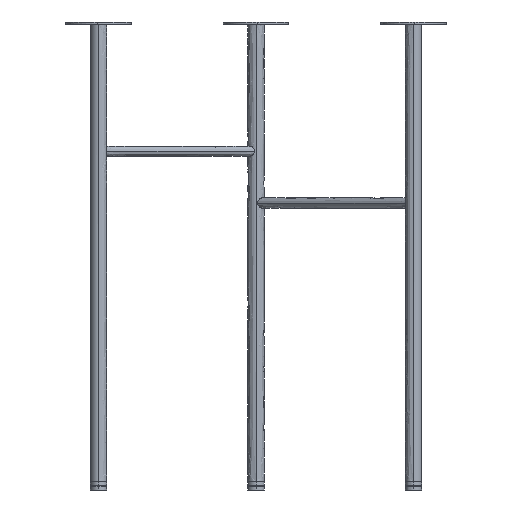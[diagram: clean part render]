
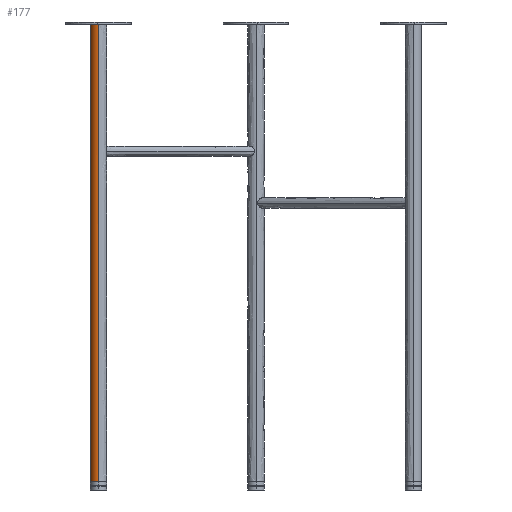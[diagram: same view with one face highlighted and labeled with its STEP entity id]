
A CAD part, left-side view. The second image highlights one B-rep face of the part: STEP entity #177.
In plain terms, the highlighted free-form (B-spline) face has degree [2, 1] with [5, 2] control points.
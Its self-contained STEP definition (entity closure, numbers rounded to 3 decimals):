
#177=ADVANCED_FACE('',(#353),#5579,.T.);
#353=FACE_OUTER_BOUND('',#547,.T.);
#547=EDGE_LOOP('',(#919,#920,#921,#922));
#919=ORIENTED_EDGE('',*,*,#4346,.T.);
#920=ORIENTED_EDGE('',*,*,#4343,.F.);
#921=ORIENTED_EDGE('',*,*,#4347,.T.);
#922=ORIENTED_EDGE('',*,*,#4316,.F.);
#1688=PCURVE('',#5519,#2500);
#1727=PCURVE('',#5522,#2539);
#1731=PCURVE('',#5579,#2543);
#1732=PCURVE('',#5579,#2544);
#1733=PCURVE('',#5579,#2545);
#1734=PCURVE('',#5579,#2546);
#1894=PCURVE('',#5602,#2706);
#1896=PCURVE('',#5602,#2708);
#2500=DEFINITIONAL_REPRESENTATION('',(#4773),#14652);
#2539=DEFINITIONAL_REPRESENTATION('',(#4805),#14652);
#2543=DEFINITIONAL_REPRESENTATION('',(#3299),#14652);
#2544=DEFINITIONAL_REPRESENTATION('',(#3300),#14652);
#2545=DEFINITIONAL_REPRESENTATION('',(#3301),#14652);
#2546=DEFINITIONAL_REPRESENTATION('',(#3302),#14652);
#2706=DEFINITIONAL_REPRESENTATION('',(#3433),#14652);
#2708=DEFINITIONAL_REPRESENTATION('',(#3435),#14652);
#3299=B_SPLINE_CURVE_WITH_KNOTS('',1,(#7535,#7536),.UNSPECIFIED.,.F.,.F.,
(2,2),(3.483,700.),.UNSPECIFIED.);
#3300=B_SPLINE_CURVE_WITH_KNOTS('',1,(#7537,#7538),.UNSPECIFIED.,.F.,.F.,
(2,2),(0.,39.27),.UNSPECIFIED.);
#3301=B_SPLINE_CURVE_WITH_KNOTS('',1,(#7541,#7542),.UNSPECIFIED.,.F.,.F.,
(2,2),(-700.,-3.483),.UNSPECIFIED.);
#3302=B_SPLINE_CURVE_WITH_KNOTS('',1,(#7543,#7544),.UNSPECIFIED.,.F.,.F.,
(2,2),(39.27,78.54),.UNSPECIFIED.);
#3433=B_SPLINE_CURVE_WITH_KNOTS('',1,(#9132,#9133),.UNSPECIFIED.,.F.,.F.,
(2,2),(-700.,-3.483),.UNSPECIFIED.);
#3435=B_SPLINE_CURVE_WITH_KNOTS('',1,(#9136,#9137),.UNSPECIFIED.,.F.,.F.,
(2,2),(3.483,700.),.UNSPECIFIED.);
#3910=SURFACE_CURVE('',#4772,(#1688,#1734),.PCURVE_S1.);
#3937=SURFACE_CURVE('',#4804,(#1727,#1732),.PCURVE_S1.);
#3940=SURFACE_CURVE('',#4811,(#1731,#1896),.PCURVE_S1.);
#3941=SURFACE_CURVE('',#4812,(#1733,#1894),.PCURVE_S1.);
#4316=EDGE_CURVE('',#5334,#5270,#3910,.T.);
#4343=EDGE_CURVE('',#5277,#5335,#3937,.T.);
#4346=EDGE_CURVE('',#5334,#5335,#3940,.T.);
#4347=EDGE_CURVE('',#5277,#5270,#3941,.T.);
#4772=(
BOUNDED_CURVE()
B_SPLINE_CURVE(2,(#7264,#7265,#7266,#7267,#7268),.UNSPECIFIED.,.F.,.F.)
B_SPLINE_CURVE_WITH_KNOTS((3,2,3),(39.27,58.905,78.54),
 .UNSPECIFIED.)
CURVE()
GEOMETRIC_REPRESENTATION_ITEM()
RATIONAL_B_SPLINE_CURVE((1.,0.707,1.,0.707,1.))
REPRESENTATION_ITEM('')
);
#4773=(
BOUNDED_CURVE()
B_SPLINE_CURVE(2,(#7269,#7270,#7271,#7272,#7273),.UNSPECIFIED.,.F.,.F.)
B_SPLINE_CURVE_WITH_KNOTS((3,2,3),(39.27,58.905,78.54),
 .UNSPECIFIED.)
CURVE()
GEOMETRIC_REPRESENTATION_ITEM()
RATIONAL_B_SPLINE_CURVE((1.,0.707,1.,0.707,1.))
REPRESENTATION_ITEM('')
);
#4804=(
BOUNDED_CURVE()
B_SPLINE_CURVE(2,(#7498,#7499,#7500,#7501,#7502),.UNSPECIFIED.,.F.,.F.)
B_SPLINE_CURVE_WITH_KNOTS((3,2,3),(0.,19.635,39.27),
 .UNSPECIFIED.)
CURVE()
GEOMETRIC_REPRESENTATION_ITEM()
RATIONAL_B_SPLINE_CURVE((1.,0.707,1.,0.707,1.))
REPRESENTATION_ITEM('')
);
#4805=(
BOUNDED_CURVE()
B_SPLINE_CURVE(2,(#7503,#7504,#7505,#7506,#7507),.UNSPECIFIED.,.F.,.F.)
B_SPLINE_CURVE_WITH_KNOTS((3,2,3),(0.,19.635,39.27),
 .UNSPECIFIED.)
CURVE()
GEOMETRIC_REPRESENTATION_ITEM()
RATIONAL_B_SPLINE_CURVE((1.,0.707,1.,0.707,1.))
REPRESENTATION_ITEM('')
);
#4811=(
BOUNDED_CURVE()
B_SPLINE_CURVE(1,(#7533,#7534),.UNSPECIFIED.,.F.,.F.)
B_SPLINE_CURVE_WITH_KNOTS((2,2),(3.483,700.),.UNSPECIFIED.)
CURVE()
GEOMETRIC_REPRESENTATION_ITEM()
RATIONAL_B_SPLINE_CURVE((1.,1.))
REPRESENTATION_ITEM('')
);
#4812=(
BOUNDED_CURVE()
B_SPLINE_CURVE(1,(#7539,#7540),.UNSPECIFIED.,.F.,.F.)
B_SPLINE_CURVE_WITH_KNOTS((2,2),(-700.,-3.483),.UNSPECIFIED.)
CURVE()
GEOMETRIC_REPRESENTATION_ITEM()
RATIONAL_B_SPLINE_CURVE((1.,1.))
REPRESENTATION_ITEM('')
);
#5270=VERTEX_POINT('',#7056);
#5277=VERTEX_POINT('',#7063);
#5334=VERTEX_POINT('',#7120);
#5335=VERTEX_POINT('',#7121);
#5519=B_SPLINE_SURFACE_WITH_KNOTS('',1,1,((#6543,#6544),(#6545,#6546)),
 .UNSPECIFIED.,.F.,.F.,.F.,(2,2),(2,2),(-23.144,83.144),
(-56.894,49.394),.UNSPECIFIED.);
#5522=B_SPLINE_SURFACE_WITH_KNOTS('',1,1,((#6615,#6616),(#6617,#6618)),
 .UNSPECIFIED.,.F.,.F.,.F.,(2,2),(2,2),(-15.625,15.625),(-15.625,15.625),
 .UNSPECIFIED.);
#5579=(
BOUNDED_SURFACE()
B_SPLINE_SURFACE(2,1,((#6619,#6620),(#6621,#6622),(#6623,#6624),(#6625,
#6626),(#6627,#6628)),.UNSPECIFIED.,.F.,.F.,.F.)
B_SPLINE_SURFACE_WITH_KNOTS((3,2,3),(2,2),(0.,19.635,39.27),
(0.,700.),.UNSPECIFIED.)
GEOMETRIC_REPRESENTATION_ITEM()
RATIONAL_B_SPLINE_SURFACE(((1.,1.),(0.707,0.707),
(1.,1.),(0.707,0.707),(1.,1.)))
REPRESENTATION_ITEM('')
SURFACE()
);
#5602=(
BOUNDED_SURFACE()
B_SPLINE_SURFACE(2,1,((#6881,#6882),(#6883,#6884),(#6885,#6886),(#6887,
#6888),(#6889,#6890)),.UNSPECIFIED.,.F.,.F.,.F.)
B_SPLINE_SURFACE_WITH_KNOTS((3,2,3),(2,2),(39.27,58.905,
78.54),(0.,700.),.UNSPECIFIED.)
GEOMETRIC_REPRESENTATION_ITEM()
RATIONAL_B_SPLINE_SURFACE(((1.,1.),(0.707,0.707),
(1.,1.),(0.707,0.707),(1.,1.)))
REPRESENTATION_ITEM('')
SURFACE()
);
#6543=CARTESIAN_POINT('',(-6175.066,677.775,906.015));
#6544=CARTESIAN_POINT('',(-6175.066,784.062,906.015));
#6545=CARTESIAN_POINT('',(-6281.353,677.775,906.015));
#6546=CARTESIAN_POINT('',(-6281.353,784.062,906.015));
#6615=CARTESIAN_POINT('',(-6212.585,715.294,206.015));
#6616=CARTESIAN_POINT('',(-6212.585,746.544,206.015));
#6617=CARTESIAN_POINT('',(-6243.835,715.294,206.015));
#6618=CARTESIAN_POINT('',(-6243.835,746.544,206.015));
#6619=CARTESIAN_POINT('',(-6240.71,730.919,909.515));
#6620=CARTESIAN_POINT('',(-6240.71,730.919,206.015));
#6621=CARTESIAN_POINT('',(-6240.71,743.419,909.515));
#6622=CARTESIAN_POINT('',(-6240.71,743.419,206.015));
#6623=CARTESIAN_POINT('',(-6228.21,743.419,909.515));
#6624=CARTESIAN_POINT('',(-6228.21,743.419,206.015));
#6625=CARTESIAN_POINT('',(-6215.71,743.419,909.515));
#6626=CARTESIAN_POINT('',(-6215.71,743.419,206.015));
#6627=CARTESIAN_POINT('',(-6215.71,730.919,909.515));
#6628=CARTESIAN_POINT('',(-6215.71,730.919,206.015));
#6881=CARTESIAN_POINT('',(-6215.71,730.919,909.515));
#6882=CARTESIAN_POINT('',(-6215.71,730.919,206.015));
#6883=CARTESIAN_POINT('',(-6215.71,718.419,909.515));
#6884=CARTESIAN_POINT('',(-6215.71,718.419,206.015));
#6885=CARTESIAN_POINT('',(-6228.21,718.419,909.515));
#6886=CARTESIAN_POINT('',(-6228.21,718.419,206.015));
#6887=CARTESIAN_POINT('',(-6240.71,718.419,909.515));
#6888=CARTESIAN_POINT('',(-6240.71,718.419,206.015));
#6889=CARTESIAN_POINT('',(-6240.71,730.919,909.515));
#6890=CARTESIAN_POINT('',(-6240.71,730.919,206.015));
#7056=CARTESIAN_POINT('',(-6240.71,730.919,906.015));
#7063=CARTESIAN_POINT('',(-6240.71,730.919,206.015));
#7120=CARTESIAN_POINT('',(-6215.71,730.919,906.015));
#7121=CARTESIAN_POINT('',(-6215.71,730.919,206.015));
#7264=CARTESIAN_POINT('',(-6215.71,730.919,906.015));
#7265=CARTESIAN_POINT('',(-6215.71,743.419,906.015));
#7266=CARTESIAN_POINT('',(-6228.21,743.419,906.015));
#7267=CARTESIAN_POINT('',(-6240.71,743.419,906.015));
#7268=CARTESIAN_POINT('',(-6240.71,730.919,906.015));
#7269=CARTESIAN_POINT('',(17.5,-3.75));
#7270=CARTESIAN_POINT('',(17.5,8.75));
#7271=CARTESIAN_POINT('',(30.,8.75));
#7272=CARTESIAN_POINT('',(42.5,8.75));
#7273=CARTESIAN_POINT('',(42.5,-3.75));
#7498=CARTESIAN_POINT('',(-6240.71,730.919,206.015));
#7499=CARTESIAN_POINT('',(-6240.71,743.419,206.015));
#7500=CARTESIAN_POINT('',(-6228.21,743.419,206.015));
#7501=CARTESIAN_POINT('',(-6215.71,743.419,206.015));
#7502=CARTESIAN_POINT('',(-6215.71,730.919,206.015));
#7503=CARTESIAN_POINT('',(12.5,0.));
#7504=CARTESIAN_POINT('',(12.5,12.5));
#7505=CARTESIAN_POINT('',(0.,12.5));
#7506=CARTESIAN_POINT('',(-12.5,12.5));
#7507=CARTESIAN_POINT('',(-12.5,0.));
#7533=CARTESIAN_POINT('',(-6215.71,730.919,906.015));
#7534=CARTESIAN_POINT('',(-6215.71,730.919,206.015));
#7535=CARTESIAN_POINT('',(39.27,3.483));
#7536=CARTESIAN_POINT('',(39.27,700.));
#7537=CARTESIAN_POINT('',(0.,700.));
#7538=CARTESIAN_POINT('',(39.27,700.));
#7539=CARTESIAN_POINT('',(-6240.71,730.919,206.015));
#7540=CARTESIAN_POINT('',(-6240.71,730.919,906.015));
#7541=CARTESIAN_POINT('',(0.,700.));
#7542=CARTESIAN_POINT('',(0.,3.483));
#7543=CARTESIAN_POINT('',(39.27,3.483));
#7544=CARTESIAN_POINT('',(0.,3.483));
#9132=CARTESIAN_POINT('',(78.54,700.));
#9133=CARTESIAN_POINT('',(78.54,3.483));
#9136=CARTESIAN_POINT('',(39.27,3.483));
#9137=CARTESIAN_POINT('',(39.27,700.));
#14652=(
GEOMETRIC_REPRESENTATION_CONTEXT(2)
PARAMETRIC_REPRESENTATION_CONTEXT()
REPRESENTATION_CONTEXT('pspace','')
);
